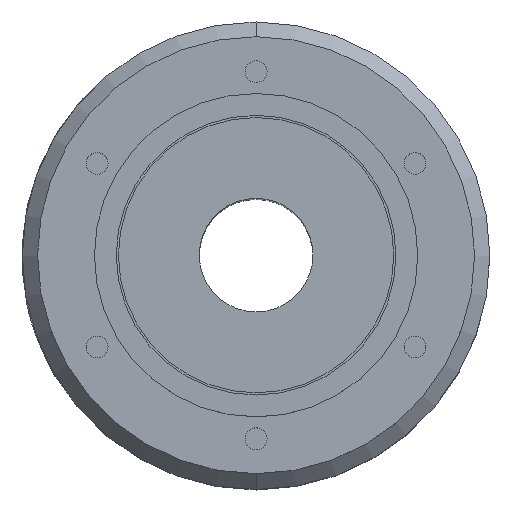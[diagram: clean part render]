
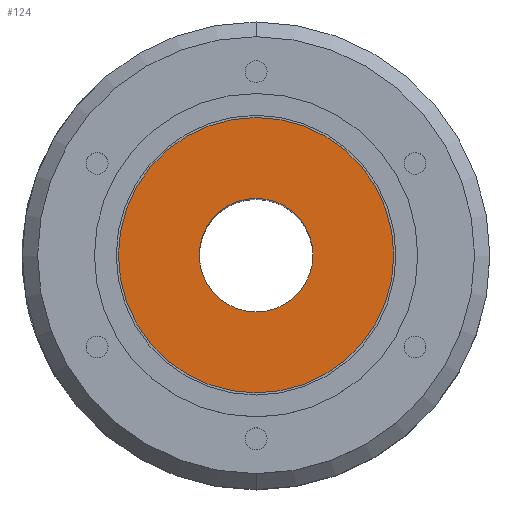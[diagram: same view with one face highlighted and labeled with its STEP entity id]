
A CAD part, top view. The second image highlights one B-rep face of the part: STEP entity #124.
In plain terms, the highlighted planar face has unit normal (0, 0, 1).
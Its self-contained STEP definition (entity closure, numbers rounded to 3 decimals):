
#73 = ORIENTED_EDGE ( 'NONE', *, *, #3804, .T. ) ;
#74 = ORIENTED_EDGE ( 'NONE', *, *, #1635, .T. ) ;
#75 = ORIENTED_EDGE ( 'NONE', *, *, #3425, .T. ) ;
#76 = ORIENTED_EDGE ( 'NONE', *, *, #3851, .T. ) ;
#92 = VERTEX_POINT ( 'NONE', #564 ) ;
#124 = ADVANCED_FACE ( 'NONE', ( #1051, #1056 ), #1133, .T. ) ;
#207 = VERTEX_POINT ( 'NONE', #1876 ) ;
#219 = VERTEX_POINT ( 'NONE', #1890 ) ;
#220 = VERTEX_POINT ( 'NONE', #1891 ) ;
#564 = CARTESIAN_POINT ( 'NONE',  ( -31.5, 0., 140. ) ) ;
#978 = EDGE_LOOP ( 'NONE', ( #73, #74 ) ) ;
#979 = EDGE_LOOP ( 'NONE', ( #75, #76 ) ) ;
#1051 = FACE_BOUND ( 'NONE', #978, .T. ) ;
#1056 = FACE_OUTER_BOUND ( 'NONE', #979, .T. ) ;
#1133 = PLANE ( 'NONE',  #3500 ) ;
#1136 = CARTESIAN_POINT ( 'NONE',  ( 0., -13., 140. ) ) ;
#1139 = DIRECTION ( 'NONE',  ( 0., 0., 1. ) ) ;
#1140 = DIRECTION ( 'NONE',  ( 0., -1., 0. ) ) ;
#1635 = EDGE_CURVE ( 'NONE', #219, #220, #2245, .T. ) ;
#1876 = CARTESIAN_POINT ( 'NONE',  ( 31.5, 0., 140. ) ) ;
#1890 = CARTESIAN_POINT ( 'NONE',  ( 0., -13., 140. ) ) ;
#1891 = CARTESIAN_POINT ( 'NONE',  ( 0., 13., 140. ) ) ;
#2112 = CARTESIAN_POINT ( 'NONE',  ( 0., 0., 140. ) ) ;
#2113 = DIRECTION ( 'NONE',  ( 0., 0., -1. ) ) ;
#2114 = DIRECTION ( 'NONE',  ( 0., 1., 0. ) ) ;
#2245 = CIRCLE ( 'NONE', #3579, 13. ) ;
#2546 = CARTESIAN_POINT ( 'NONE',  ( 0., 0., 140. ) ) ;
#2548 = DIRECTION ( 'NONE',  ( 0., 0., 1. ) ) ;
#2549 = DIRECTION ( 'NONE',  ( 1., 0., 0. ) ) ;
#2685 = CIRCLE ( 'NONE', #3637, 31.5 ) ;
#3006 = CARTESIAN_POINT ( 'NONE',  ( 0., 0., 140. ) ) ;
#3007 = DIRECTION ( 'NONE',  ( 0., 0., -1. ) ) ;
#3008 = DIRECTION ( 'NONE',  ( 0., 1., 0. ) ) ;
#3119 = CIRCLE ( 'NONE', #3688, 13. ) ;
#3185 = CIRCLE ( 'NONE', #3717, 31.5 ) ;
#3245 = CARTESIAN_POINT ( 'NONE',  ( 0., 0., 140. ) ) ;
#3252 = DIRECTION ( 'NONE',  ( 0., 0., 1. ) ) ;
#3253 = DIRECTION ( 'NONE',  ( 1., 0., 0. ) ) ;
#3425 = EDGE_CURVE ( 'NONE', #207, #92, #2685, .T. ) ;
#3500 = AXIS2_PLACEMENT_3D ( 'NONE', #1136, #1139, #1140 ) ;
#3579 = AXIS2_PLACEMENT_3D ( 'NONE', #2112, #2113, #2114 ) ;
#3637 = AXIS2_PLACEMENT_3D ( 'NONE', #2546, #2548, #2549 ) ;
#3688 = AXIS2_PLACEMENT_3D ( 'NONE', #3006, #3007, #3008 ) ;
#3717 = AXIS2_PLACEMENT_3D ( 'NONE', #3245, #3252, #3253 ) ;
#3804 = EDGE_CURVE ( 'NONE', #220, #219, #3119, .T. ) ;
#3851 = EDGE_CURVE ( 'NONE', #92, #207, #3185, .T. ) ;
